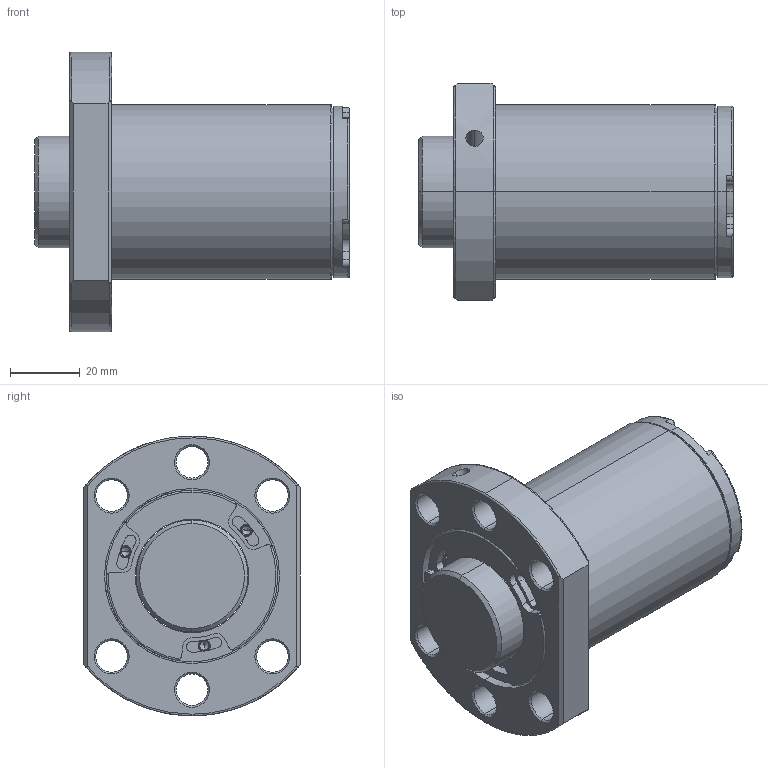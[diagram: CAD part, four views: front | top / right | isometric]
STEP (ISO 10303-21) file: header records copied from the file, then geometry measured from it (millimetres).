
FILE_DESCRIPTION (( 'STEP AP203' ), '1' );
FILE_NAME ('SFSR03220B1D-C.STEP', '2020-06-17T01:48:15', ( '' ), ( '' ), 'SwSTEP 2.0', 'SolidWorks 2013', '' );
FILE_SCHEMA (( 'CONFIG_CONTROL_DESIGN' ));
Length unit declared in the file: millimetre
Products named in the file (1): SFSR03220B1D-C
Bounding box: 90 x 62 x 80 mm (x, y, z)
Volume: 117426.7 mm3; surface area: 35399.3 mm2
Topology: 2 solids, 2 shells, 255 faces, 661 edges, 413 vertices
Faces by surface type: cylinder 129, plane 59, cone 50, bspline 17
Entity records: 8864 total; most frequent: CARTESIAN_POINT 2463, DIRECTION 1425, ORIENTED_EDGE 1298, EDGE_CURVE 649, AXIS2_PLACEMENT_3D 592, VERTEX_POINT 413, CIRCLE 353, EDGE_LOOP 288
